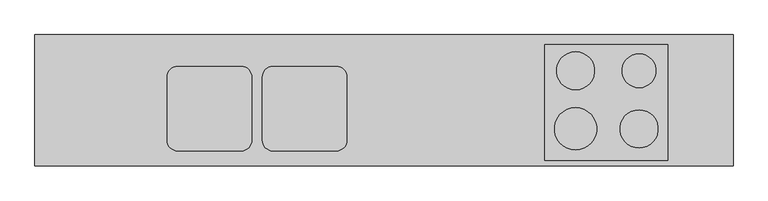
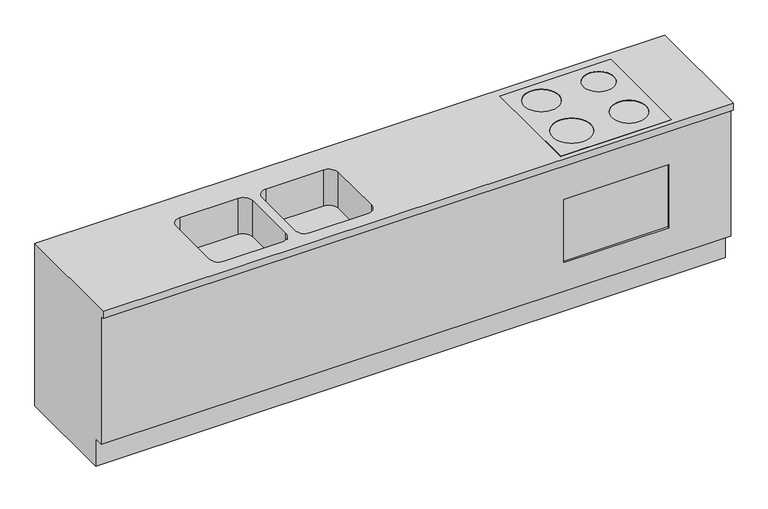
"""IFC4 building model written with IfcOpenShell, lengths in millimetres: furniture geometry, NL_73_aanrechtblok : zonder bovenkastjes."""

from ifc_helpers import new_model, si_unit, point, frame, frame_2d, origin, place, context, project, spatial, polyline, circle_curve, trimmed, segment, composite_curve, outline, extrude, source, transform, mapped, element, save
from ifc_brep_helpers import plane_surface, revolved_surface, advanced_brep


def furniture_85e4ec6a(model_context):
    return source(origin(), model_context, "Body", "SolidModel", [
        extrude(outline(polyline([(1076.8453046, -45.3694609), (1076.8453046, -595.3694609), (496.8453046, -595.3694609), (496.8453046, -45.3694609), (1076.8453046, -45.3694609)]), holes=[composite_curve([segment(trimmed(circle_curve(frame_2d((641.8453046, -170.3694609)), 90.0), [point((641.8453046, -80.3694609))], [point((641.8453046, -260.3694609))], True, "CARTESIAN"), True, "CONTINUOUS"), segment(trimmed(circle_curve(frame_2d((641.8453046, -170.3694609)), 90.0), [point((641.8453046, -260.3694609))], [point((641.8453046, -80.3694609))], True, "CARTESIAN"), True, "CONTINUOUS")], self_intersect=False), composite_curve([segment(trimmed(circle_curve(frame_2d((941.8453046, -170.3694609)), 80.0), [point((941.8453046, -90.3694609))], [point((941.8453046, -250.3694609))], True, "CARTESIAN"), True, "CONTINUOUS"), segment(trimmed(circle_curve(frame_2d((941.8453046, -170.3694609)), 80.0), [point((941.8453046, -250.3694609))], [point((941.8453046, -90.3694609))], True, "CARTESIAN"), True, "CONTINUOUS")], self_intersect=False), composite_curve([segment(trimmed(circle_curve(frame_2d((641.8453046, -445.3694609)), 100.0), [point((641.8453046, -345.3694609))], [point((641.8453046, -545.3694609))], True, "CARTESIAN"), True, "CONTINUOUS"), segment(trimmed(circle_curve(frame_2d((641.8453046, -445.3694609)), 100.0), [point((641.8453046, -545.3694609))], [point((641.8453046, -345.3694609))], True, "CARTESIAN"), True, "CONTINUOUS")], self_intersect=False), composite_curve([segment(trimmed(circle_curve(frame_2d((941.8453046, -445.3694609)), 90.0), [point((941.8453046, -355.3694609))], [point((941.8453046, -535.3694609))], True, "CARTESIAN"), True, "CONTINUOUS"), segment(trimmed(circle_curve(frame_2d((941.8453046, -445.3694609)), 90.0), [point((941.8453046, -535.3694609))], [point((941.8453046, -355.3694609))], True, "CARTESIAN"), True, "CONTINUOUS")], self_intersect=False)]), frame((0.0, 0.0, 900.0), z_axis=(0.0, 0.0, 1.0), x_axis=(1.0, 0.0, 0.0)), (0.0, 0.0, 1.0), 2.0),
        advanced_brep(
        [(-1913.5686582, -550.0, 0.0), (-1913.5686582, -550.0, 150.0), (-1913.5686582, -600.0, 150.0), (-1913.5686582, -600.0, 860.0), (-1913.5686582, -620.0, 860.0), (-1913.5686582, -620.0, 900.0), (-1913.5686582, 0.0, 900.0), (-1913.5686582, 0.0, 0.0), (1386.4313418, -550.0, 0.0), (1386.4313418, 0.0, 0.0), (1386.4313418, 0.0, 900.0), (1386.4313418, -620.0, 900.0), (1386.4313418, -620.0, 860.0), (1386.4313418, -600.0, 860.0), (1386.4313418, -600.0, 150.0), (1386.4313418, -550.0, 150.0), (1061.4313418, -600.0, 660.0), (1061.4313418, -600.0, 310.0), (511.4313418, -600.0, 310.0), (511.4313418, -600.0, 660.0), (-1238.5686582, -150.0, 900.0), (-938.5686582, -150.0, 900.0), (-888.5686582, -200.0, 900.0), (-888.5686582, -500.0, 900.0), (-938.5686582, -550.0, 900.0), (-1238.5686582, -550.0, 900.0), (-1288.5686582, -500.0, 900.0), (-1288.5686582, -200.0, 900.0), (-788.5686582, -150.0, 900.0), (-488.5686582, -150.0, 900.0), (-438.5686582, -200.0, 900.0), (-438.5686582, -500.0, 900.0), (-488.5686582, -550.0, 900.0), (-788.5686582, -550.0, 900.0), (-838.5686582, -500.0, 900.0), (-838.5686582, -200.0, 900.0), (-938.5686582, -150.0, 700.0), (-1238.5686582, -150.0, 700.0), (-1288.5686582, -200.0, 700.0), (-1288.5686582, -500.0, 700.0), (-1238.5686582, -550.0, 700.0), (-938.5686582, -550.0, 700.0), (-888.5686582, -500.0, 700.0), (-888.5686582, -200.0, 700.0), (-488.5686582, -150.0, 700.0), (-788.5686582, -150.0, 700.0), (-838.5686582, -200.0, 700.0), (-838.5686582, -500.0, 700.0), (-788.5686582, -550.0, 700.0), (-488.5686582, -550.0, 700.0), (-438.5686582, -500.0, 700.0), (-438.5686582, -200.0, 700.0), (1061.4313418, -590.0, 660.0), (511.4313418, -590.0, 660.0), (511.4313418, -590.0, 310.0), (1061.4313418, -590.0, 310.0)],
        [
            (0, 1),
            (1, 2),
            (2, 3),
            (3, 4),
            (4, 5),
            (5, 6),
            (6, 7),
            (7, 0),
            (8, 9),
            (9, 10),
            (10, 11),
            (11, 12),
            (12, 13),
            (13, 14),
            (14, 15),
            (15, 8),
            (0, 8),
            (15, 1),
            (14, 2),
            (13, 3),
            (16, 17),
            (17, 18),
            (18, 19),
            (19, 16),
            (12, 4),
            (11, 5),
            (10, 6),
            (20, 21),
            (21, 22, circle_curve(frame((-938.5686582, -200.0, 900.0), z_axis=(0.0, 0.0, -1.0), x_axis=(0.0, -1.0, 0.0)), 50.0)),
            (22, 23),
            (23, 24, circle_curve(frame((-938.5686582, -500.0, 900.0), z_axis=(0.0, 0.0, -1.0), x_axis=(0.0, -1.0, 0.0)), 50.0)),
            (24, 25),
            (25, 26, circle_curve(frame((-1238.5686582, -500.0, 900.0), z_axis=(0.0, 0.0, -1.0), x_axis=(0.0, -1.0, 0.0)), 50.0)),
            (26, 27),
            (27, 20, circle_curve(frame((-1238.5686582, -200.0, 900.0), z_axis=(0.0, 0.0, -1.0), x_axis=(0.0, -1.0, 0.0)), 50.0)),
            (28, 29),
            (29, 30, circle_curve(frame((-488.5686582, -200.0, 900.0), z_axis=(0.0, 0.0, -1.0), x_axis=(0.0, -1.0, 0.0)), 50.0)),
            (30, 31),
            (31, 32, circle_curve(frame((-488.5686582, -500.0, 900.0), z_axis=(0.0, 0.0, -1.0), x_axis=(0.0, -1.0, 0.0)), 50.0)),
            (32, 33),
            (33, 34, circle_curve(frame((-788.5686582, -500.0, 900.0), z_axis=(0.0, 0.0, -1.0), x_axis=(0.0, -1.0, 0.0)), 50.0)),
            (34, 35),
            (35, 28, circle_curve(frame((-788.5686582, -200.0, 900.0), z_axis=(0.0, 0.0, -1.0), x_axis=(0.0, -1.0, 0.0)), 50.0)),
            (9, 7),
            (36, 37),
            (37, 38, circle_curve(frame((-1238.5686582, -200.0, 700.0), z_axis=(0.0, 0.0, 1.0), x_axis=(0.0, -1.0, 0.0)), 50.0)),
            (38, 39),
            (39, 40, circle_curve(frame((-1238.5686582, -500.0, 700.0), z_axis=(0.0, 0.0, 1.0), x_axis=(0.0, -1.0, 0.0)), 50.0)),
            (40, 41),
            (41, 42, circle_curve(frame((-938.5686582, -500.0, 700.0), z_axis=(0.0, 0.0, 1.0), x_axis=(0.0, -1.0, 0.0)), 50.0)),
            (42, 43),
            (43, 36, circle_curve(frame((-938.5686582, -200.0, 700.0), z_axis=(0.0, 0.0, 1.0), x_axis=(0.0, -1.0, 0.0)), 50.0)),
            (36, 21),
            (20, 37),
            (27, 38),
            (26, 39),
            (25, 40),
            (24, 41),
            (23, 42),
            (22, 43),
            (44, 45),
            (45, 46, circle_curve(frame((-788.5686582, -200.0, 700.0), z_axis=(0.0, 0.0, 1.0), x_axis=(0.0, -1.0, 0.0)), 50.0)),
            (46, 47),
            (47, 48, circle_curve(frame((-788.5686582, -500.0, 700.0), z_axis=(0.0, 0.0, 1.0), x_axis=(0.0, -1.0, 0.0)), 50.0)),
            (48, 49),
            (49, 50, circle_curve(frame((-488.5686582, -500.0, 700.0), z_axis=(0.0, 0.0, 1.0), x_axis=(0.0, -1.0, 0.0)), 50.0)),
            (50, 51),
            (51, 44, circle_curve(frame((-488.5686582, -200.0, 700.0), z_axis=(0.0, 0.0, 1.0), x_axis=(0.0, -1.0, 0.0)), 50.0)),
            (44, 29),
            (28, 45),
            (35, 46),
            (34, 47),
            (33, 48),
            (32, 49),
            (31, 50),
            (30, 51),
            (52, 53),
            (53, 54),
            (54, 55),
            (55, 52),
            (55, 17),
            (16, 52),
            (54, 18),
            (53, 19),
        ],
        [
            plane_surface(frame((-1913.5686582, 0.0, -1092.8860874), z_axis=(-1.0, 0.0, 0.0), x_axis=(0.0, 1.0, 0.0))),
            plane_surface(frame((1386.4313418, 0.0, -1092.8860874), z_axis=(1.0, 0.0, 0.0), x_axis=(0.0, 1.0, 0.0))),
            plane_surface(frame((-1913.5686582, -550.0, 0.0), z_axis=(0.0, -1.0, 0.0), x_axis=(1.0, 0.0, 0.0))),
            plane_surface(frame((-1913.5686582, -550.0, 150.0), z_axis=(0.0, 0.0, -1.0), x_axis=(1.0, 0.0, 0.0))),
            plane_surface(frame((-1913.5686582, -600.0, 150.0), z_axis=(0.0, -1.0, 0.0), x_axis=(1.0, 0.0, 0.0))),
            plane_surface(frame((-1913.5686582, -600.0, 860.0), z_axis=(0.0, 0.0, -1.0), x_axis=(1.0, 0.0, 0.0))),
            plane_surface(frame((-1913.5686582, -620.0, 860.0), z_axis=(0.0, -1.0, 0.0), x_axis=(1.0, 0.0, 0.0))),
            plane_surface(frame((-1913.5686582, -620.0, 900.0), z_axis=(0.0, 0.0, 1.0), x_axis=(1.0, 0.0, 0.0))),
            plane_surface(frame((-1913.5686582, 0.0, 900.0), z_axis=(0.0, 1.0, 0.0), x_axis=(1.0, 0.0, 0.0))),
            plane_surface(frame((-1913.5686582, 0.0, 0.0), z_axis=(0.0, 0.0, -1.0), x_axis=(1.0, 0.0, 0.0))),
            plane_surface(frame((-1238.5686582, -150.0, 700.0), z_axis=(0.0, 0.0, 1.0), x_axis=(1.0, 0.0, 0.0))),
            plane_surface(frame((-938.5686582, -150.0, 900.0), z_axis=(0.0, -1.0, 0.0), x_axis=(0.0, 0.0, -1.0))),
            revolved_surface(polyline([(-1238.5686582, -250.0, 900.0), (-1238.5686582, -250.0, 700.0)]), (-1238.5686582, -200.0, 700.0), (0.0, 0.0, 1.0)),
            plane_surface(frame((-1288.5686582, -200.0, 900.0), z_axis=(1.0, 0.0, 0.0), x_axis=(0.0, 0.0, -1.0))),
            revolved_surface(polyline([(-1238.5686582, -550.0, 900.0), (-1238.5686582, -550.0, 700.0)]), (-1238.5686582, -500.0, 700.0), (0.0, 0.0, 1.0)),
            plane_surface(frame((-1238.5686582, -550.0, 900.0), z_axis=(0.0, 1.0, 0.0), x_axis=(0.0, 0.0, -1.0))),
            revolved_surface(polyline([(-938.5686582, -550.0, 900.0), (-938.5686582, -550.0, 700.0)]), (-938.5686582, -500.0, 700.0), (0.0, 0.0, 1.0)),
            plane_surface(frame((-888.5686582, -500.0, 900.0), z_axis=(-1.0, 0.0, 0.0), x_axis=(0.0, 0.0, -1.0))),
            revolved_surface(polyline([(-938.5686582, -250.0, 900.0), (-938.5686582, -250.0, 700.0)]), (-938.5686582, -200.0, 700.0), (0.0, 0.0, 1.0)),
            plane_surface(frame((-788.5686582, -150.0, 700.0), z_axis=(0.0, 0.0, 1.0), x_axis=(1.0, 0.0, 0.0))),
            plane_surface(frame((-488.5686582, -150.0, 900.0), z_axis=(0.0, -1.0, 0.0), x_axis=(0.0, 0.0, -1.0))),
            revolved_surface(polyline([(-788.5686582, -250.0, 900.0), (-788.5686582, -250.0, 700.0)]), (-788.5686582, -200.0, 700.0), (0.0, 0.0, 1.0)),
            plane_surface(frame((-838.5686582, -200.0, 900.0), z_axis=(1.0, 0.0, 0.0), x_axis=(0.0, 0.0, -1.0))),
            revolved_surface(polyline([(-788.5686582, -550.0, 900.0), (-788.5686582, -550.0, 700.0)]), (-788.5686582, -500.0, 700.0), (0.0, 0.0, 1.0)),
            plane_surface(frame((-788.5686582, -550.0, 900.0), z_axis=(0.0, 1.0, 0.0), x_axis=(0.0, 0.0, -1.0))),
            revolved_surface(polyline([(-488.5686582, -550.0, 900.0), (-488.5686582, -550.0, 700.0)]), (-488.5686582, -500.0, 700.0), (0.0, 0.0, 1.0)),
            plane_surface(frame((-438.5686582, -500.0, 900.0), z_axis=(-1.0, 0.0, 0.0), x_axis=(0.0, 0.0, -1.0))),
            revolved_surface(polyline([(-488.5686582, -250.0, 900.0), (-488.5686582, -250.0, 700.0)]), (-488.5686582, -200.0, 700.0), (0.0, 0.0, 1.0)),
            plane_surface(frame((1061.4313418, -590.0, 660.0), z_axis=(0.0, -1.0, 0.0), x_axis=(0.0, 0.0, -1.0))),
            plane_surface(frame((1061.4313418, -590.0, 660.0), z_axis=(-1.0, 0.0, 0.0), x_axis=(0.0, -1.0, 0.0))),
            plane_surface(frame((1061.4313418, -590.0, 310.0), z_axis=(0.0, 0.0, 1.0), x_axis=(0.0, -1.0, 0.0))),
            plane_surface(frame((511.4313418, -590.0, 310.0), z_axis=(1.0, 0.0, 0.0), x_axis=(0.0, -1.0, 0.0))),
            plane_surface(frame((511.4313418, -590.0, 660.0), z_axis=(0.0, 0.0, -1.0), x_axis=(0.0, -1.0, 0.0))),
        ],
        [
            (0, [[1, 2, 3, 4, 5, 6, 7, 8]]),
            (1, [[9, 10, 11, 12, 13, 14, 15, 16]]),
            (2, [[-1, 17, -16, 18]]),
            (3, [[-2, -18, -15, 19]]),
            (4, [[-3, -19, -14, 20], [21, 22, 23, 24]]),
            (5, [[-4, -20, -13, 25]]),
            (6, [[-5, -25, -12, 26]]),
            (7, [[-6, -26, -11, 27], [28, 29, 30, 31, 32, 33, 34, 35], [36, 37, 38, 39, 40, 41, 42, 43]]),
            (8, [[-7, -27, -10, 44]]),
            (9, [[-8, -44, -9, -17]]),
            (10, [[45, 46, 47, 48, 49, 50, 51, 52]]),
            (11, [[-45, 53, -28, 54]]),
            (12, [[-46, -54, -35, 55]]),
            (13, [[-47, -55, -34, 56]]),
            (14, [[-48, -56, -33, 57]]),
            (15, [[-49, -57, -32, 58]]),
            (16, [[-50, -58, -31, 59]]),
            (17, [[-51, -59, -30, 60]]),
            (18, [[-52, -60, -29, -53]]),
            (19, [[61, 62, 63, 64, 65, 66, 67, 68]]),
            (20, [[-61, 69, -36, 70]]),
            (21, [[-62, -70, -43, 71]]),
            (22, [[-63, -71, -42, 72]]),
            (23, [[-64, -72, -41, 73]]),
            (24, [[-65, -73, -40, 74]]),
            (25, [[-66, -74, -39, 75]]),
            (26, [[-67, -75, -38, 76]]),
            (27, [[-68, -76, -37, -69]]),
            (28, [[77, 78, 79, 80]]),
            (29, [[-80, 81, -21, 82]]),
            (30, [[-79, 83, -22, -81]]),
            (31, [[-78, 84, -23, -83]]),
            (32, [[-77, -82, -24, -84]]),
        ],
    ),
    ])


if __name__ == "__main__":
    model = new_model("IFC4")
    model_context = context("Model", 3, world=origin())
    ifc_project = project(units=[si_unit("LENGTHUNIT", "METRE", prefix="MILLI")], contexts=[model_context])
    site = spatial("IfcSite", under=ifc_project)
    building = spatial("IfcBuilding", under=site)
    placement = place(None, origin())
    furniture_shape = furniture_85e4ec6a(model_context)
    element("IfcFurniture", 1, ObjectType="NL_73_aanrechtblok : zonder bovenkastjes", at=placement, inside=building, context=model_context, shape_type="MappedRepresentation", body=[
        mapped(furniture_shape, transform((0.0, 0.0, 0.0), x_axis=(1.0, 0.0, 0.0), y_axis=(0.0, 1.0, 0.0), z_axis=(0.0, 0.0, 1.0))),
    ])
    save(model, "model.ifc")
